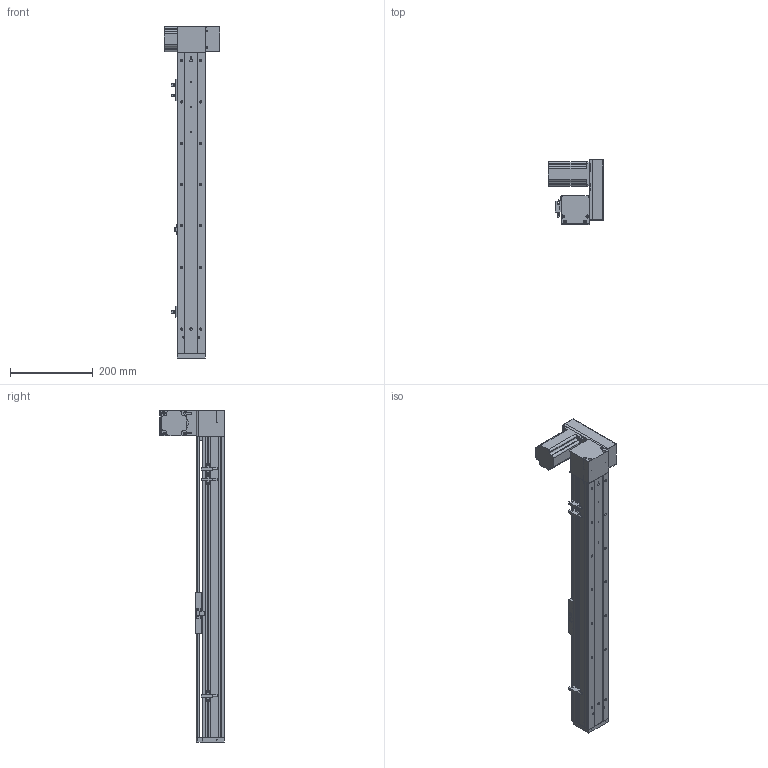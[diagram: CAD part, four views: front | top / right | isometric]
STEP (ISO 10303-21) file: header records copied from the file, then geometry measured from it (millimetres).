
FILE_DESCRIPTION (( 'STEP AP203' ), '1' );
FILE_NAME ('ML68-S550-UL.STEP', '2016-08-04T12:24:06', ( '' ), ( '' ), 'SwSTEP 2.0', 'SolidWorks 2014', '' );
FILE_SCHEMA (( 'CONFIG_CONTROL_DESIGN' ));
Length unit declared in the file: millimetre
Products named in the file (12): ML68傷啣; 60換覜結え; 三协电机MH201N2_預設; ML68菁釱^ML68-S550-UL; QS68酘衵殏萇儂啣; ML68滅鳥啣盓傅輸媼; ML68雄赽釱; QS68左右折电机板罩子; ML68奻裔^ML68-S550-UL; ML68-BR傷啣; 換覜ん; ML68-S550-UL
Assembly tree (13 placements, depth 2):
  ML68-S550-UL
    ML68菁釱^ML68-S550-UL
    ML68奻裔^ML68-S550-UL
    60換覜結え
    ML68-BR傷啣
    換覜ん  x3
    ML68傷啣
    三协电机MH201N2_預設
    ML68雄赽釱
    QS68酘衵殏萇儂啣
    QS68左右折电机板罩子
    ML68滅鳥啣盓傅輸媼
Bounding box: 133.5 x 157 x 804 mm (x, y, z)
Volume: 1601707.3 mm3; surface area: 590210.1 mm2
Topology: 13 solids, 13 shells, 903 faces, 2472 edges, 1571 vertices
Faces by surface type: cylinder 412, plane 399, cone 92
Entity records: 28636 total; most frequent: CARTESIAN_POINT 5466, DIRECTION 4686, ORIENTED_EDGE 4452, EDGE_CURVE 2226, AXIS2_PLACEMENT_3D 1691, VERTEX_POINT 1459, LINE 1304, VECTOR 1304
